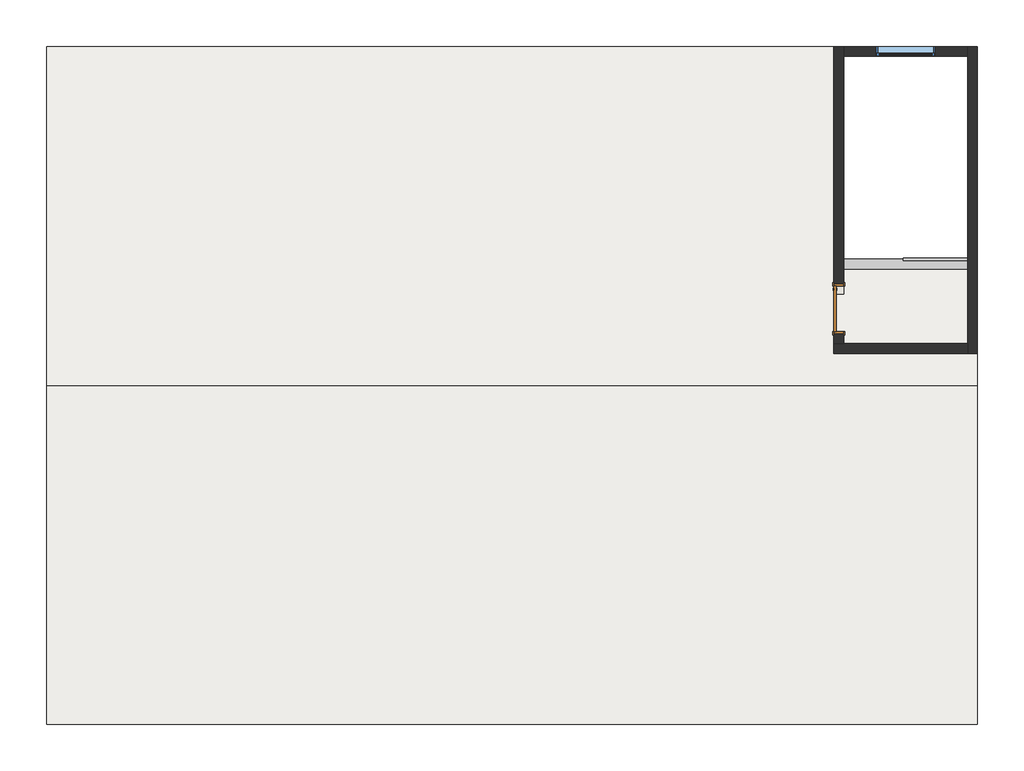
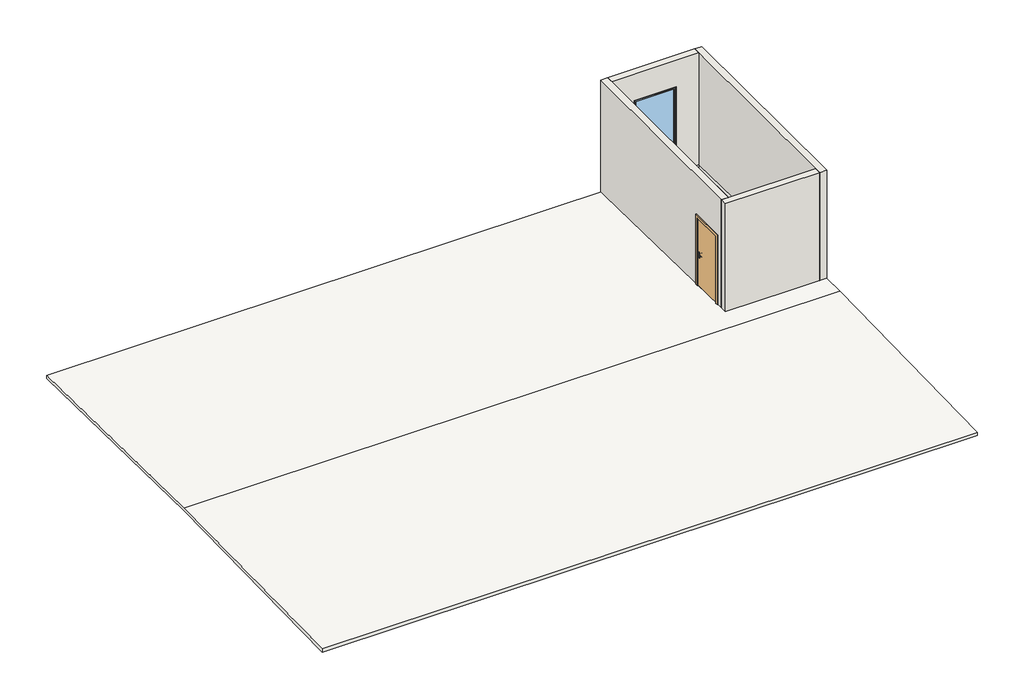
# One storey, incomplete: 4 walls, 1 beam, 1 door, 1 railing, 1 roof, 1 window.
"""IFC4 building model written with IfcOpenShell, lengths in millimetres."""

import ifcopenshell
import ifcopenshell.guid

model = None  # the IFC model being written
_history = None  # IfcOwnerHistory: only IFC2X3 demands one
_inside = {}  # id of a spatial element -> (the spatial element, [elements in it])
_under = {}  # id of a project, library or spatial element -> (it, [spatial elements below it])
_declared = {}  # id of a project -> (the project, [libraries it declares])
_typed = {}  # id of a type object -> (the type object, [elements of that type])
_made_of = {}  # id of a material, layer set ... -> (it, [elements and type objects made of it])


def new_model(schema):
    """Start an empty IFC model of exactly this schema.

    Asked for "IFC4X3", IfcOpenShell would pick the latest addendum, in which some entities
    have other attributes; the version numbers below select the first issue.
    IFC2X3 requires an IfcOwnerHistory on every rooted entity: one is made here for all.
    """
    global model, _history
    if schema == "IFC4X3":
        model = ifcopenshell.file(schema_version=(4, 3, 0, 0))
    else:
        model = ifcopenshell.file(schema=schema)
    _inside.clear()
    _under.clear()
    _declared.clear()
    _typed.clear()
    _made_of.clear()
    _history = None
    if model.schema == "IFC2X3":
        org = make("IfcOrganization", Name="unknown")
        user = make(
            "IfcPersonAndOrganization",
            ThePerson=make("IfcPerson", FamilyName="unknown"),
            TheOrganization=org,
        )
        app = make(
            "IfcApplication",
            ApplicationDeveloper=org,
            Version="unknown",
            ApplicationFullName="unknown",
            ApplicationIdentifier="unknown",
        )
        _history = make(
            "IfcOwnerHistory",
            OwningUser=user,
            OwningApplication=app,
            ChangeAction="ADDED",
            CreationDate=0,
        )
    return model


def make(cls, **values):
    """One entity of the class cls with the attributes given. An attribute that is None is left unset."""
    return model.create_entity(
        cls, **{name: value for name, value in values.items() if value is not None}
    )


def rooted(cls, **values):
    """An entity with a GlobalId (a new one), such as an element, a storey or a relation."""
    return make(cls, GlobalId=ifcopenshell.guid.new(), OwnerHistory=_history, **values)


def si_unit(unit_type, name, prefix=None):
    """IfcSIUnit, for example si_unit("LENGTHUNIT", "METRE", prefix="MILLI")."""
    return make("IfcSIUnit", UnitType=unit_type, Prefix=prefix, Name=name)


def assignment(units):
    """IfcUnitAssignment: the units of a project."""
    return None if units is None else make("IfcUnitAssignment", Units=units)


def point(xyz):
    """IfcCartesianPoint."""
    return None if xyz is None else make("IfcCartesianPoint", Coordinates=xyz)


def direction(xyz):
    """IfcDirection."""
    return None if xyz is None else make("IfcDirection", DirectionRatios=xyz)


def frame(location, z_axis=None, x_axis=None):
    """IfcAxis2Placement3D, a coordinate frame: its origin and axes. An axis left out is left unset."""
    return make(
        "IfcAxis2Placement3D",
        Location=point(location),
        Axis=direction(z_axis),
        RefDirection=direction(x_axis),
    )


def frame_2d(location, x_axis=None):
    """IfcAxis2Placement2D, a coordinate frame in the plane: its origin and x axis."""
    return make(
        "IfcAxis2Placement2D", Location=point(location), RefDirection=direction(x_axis)
    )


def origin():
    """The frame at (0, 0, 0) with its axes left unset."""
    return frame((0.0, 0.0, 0.0))


def origin_with_axes():
    """The frame at (0, 0, 0) with the z axis (0, 0, 1) and the x axis (1, 0, 0) written out."""
    return frame((0.0, 0.0, 0.0), z_axis=(0.0, 0.0, 1.0), x_axis=(1.0, 0.0, 0.0))


def place(relative_to, where):
    """IfcLocalPlacement: puts the frame where relative to a parent placement (None: the world)."""
    return make(
        "IfcLocalPlacement", PlacementRelTo=relative_to, RelativePlacement=where
    )


def context(
    kind, dimensions, precision=None, world=None, true_north=None, identifier=None
):
    """IfcGeometricRepresentationContext, for example the 3D "Model" context."""
    return make(
        "IfcGeometricRepresentationContext",
        ContextIdentifier=identifier,
        ContextType=kind,
        CoordinateSpaceDimension=dimensions,
        Precision=precision,
        WorldCoordinateSystem=world,
        TrueNorth=true_north,
    )


def project(units=None, contexts=None):
    """IfcProject with its units and contexts."""
    return rooted(
        "IfcProject",
        Name="project",
        RepresentationContexts=contexts,
        UnitsInContext=assignment(units),
    )


def spatial(cls, under=None, at=None, **own):
    """A site, building, storey or space (cls), placed at a placement, below another one or the project."""
    s = rooted(cls, ObjectPlacement=at, **own)
    if under is not None:
        _under.setdefault(under.id(), (under, []))[1].append(s)
    return s


def polyline(points):
    """IfcPolyline through the points."""
    return make("IfcPolyline", Points=[point(p) for p in points])


def circle_curve(where, radius):
    """IfcCircle in the frame where."""
    return make("IfcCircle", Position=where, Radius=radius)


def ellipse_curve(where, semi_axis1, semi_axis2):
    """IfcEllipse in the frame where."""
    return make(
        "IfcEllipse", Position=where, SemiAxis1=semi_axis1, SemiAxis2=semi_axis2
    )


def trimmed(basis, trim1, trim2, sense, master):
    """IfcTrimmedCurve: the piece of a basis curve between two trims."""
    return make(
        "IfcTrimmedCurve",
        BasisCurve=basis,
        Trim1=trim1,
        Trim2=trim2,
        SenseAgreement=sense,
        MasterRepresentation=master,
    )


def segment(curve, same_sense, transition):
    """IfcCompositeCurveSegment."""
    return make(
        "IfcCompositeCurveSegment",
        Transition=transition,
        SameSense=same_sense,
        ParentCurve=curve,
    )


def composite_curve(segments, self_intersect=None):
    """IfcCompositeCurve: segments joined end to end."""
    return make("IfcCompositeCurve", Segments=segments, SelfIntersect=self_intersect)


def outline(outer, holes=None, kind="AREA"):
    """IfcArbitraryClosedProfileDef: a profile drawn as a closed curve; with holes, ...WithVoids."""
    if holes is None:
        return make("IfcArbitraryClosedProfileDef", ProfileType=kind, OuterCurve=outer)
    return make(
        "IfcArbitraryProfileDefWithVoids",
        ProfileType=kind,
        OuterCurve=outer,
        InnerCurves=holes,
    )


def extrude(swept, where, along, depth):
    """IfcExtrudedAreaSolid: the profile swept, set in the frame where, extruded along a direction by depth."""
    return make(
        "IfcExtrudedAreaSolid",
        SweptArea=swept,
        Position=where,
        ExtrudedDirection=direction(along),
        Depth=depth,
    )


def faces_of(points, faces, orient=None, outer=None):
    """IfcFace entities. A face is a list of loops; a loop is a list of indices into points, from 0.

    orient and outer hold one flag for each loop. By default every Orientation is true, the
    first loop of a face is its IfcFaceOuterBound and the others are IfcFaceBound.
    """
    made = []
    for i, loops in enumerate(faces):
        bounds = []
        for j, loop in enumerate(loops):
            is_outer = j == 0 if outer is None else outer[i][j]
            bounds.append(
                make(
                    "IfcFaceOuterBound" if is_outer else "IfcFaceBound",
                    Bound=make("IfcPolyLoop", Polygon=[points[k] for k in loop]),
                    Orientation=True if orient is None else orient[i][j],
                )
            )
        made.append(make("IfcFace", Bounds=bounds))
    return made


def faceted_brep(points, faces, orient=None, outer=None, voids=None):
    """IfcFacetedBrep: a solid bounded by flat faces; with voids (closed shells), ...WithVoids."""
    shared = [point(p) for p in points]
    hull = make("IfcClosedShell", CfsFaces=faces_of(shared, faces, orient, outer))
    if voids is None:
        return make("IfcFacetedBrep", Outer=hull)
    return make(
        "IfcFacetedBrepWithVoids",
        Outer=hull,
        Voids=[
            make(cls, CfsFaces=faces_of(shared, fs, o, b)) for cls, fs, o, b in voids
        ],
    )


def shape(context_of_items, identifier, shape_type, items):
    """IfcShapeRepresentation: the items that make up one representation, for example the "Body"."""
    return make(
        "IfcShapeRepresentation",
        ContextOfItems=context_of_items,
        RepresentationIdentifier=identifier,
        RepresentationType=shape_type,
        Items=items,
    )


def source(mapping_origin, context_of_items, identifier, shape_type, items):
    """IfcRepresentationMap: a shape defined once, which mapped items show again and again."""
    return make(
        "IfcRepresentationMap",
        MappingOrigin=mapping_origin,
        MappedRepresentation=shape(context_of_items, identifier, shape_type, items),
    )


def transform(
    local_origin,
    x_axis=None,
    y_axis=None,
    z_axis=None,
    scale=None,
    scale2=None,
    scale3=None,
    uniform=True,
):
    """IfcCartesianTransformationOperator3D, or its non-uniform kind. x_axis, y_axis, z_axis: its Axis1, 2, 3."""
    if uniform:
        return make(
            "IfcCartesianTransformationOperator3D",
            Axis1=direction(x_axis),
            Axis2=direction(y_axis),
            LocalOrigin=point(local_origin),
            Scale=scale,
            Axis3=direction(z_axis),
        )
    return make(
        "IfcCartesianTransformationOperator3DnonUniform",
        Axis1=direction(x_axis),
        Axis2=direction(y_axis),
        LocalOrigin=point(local_origin),
        Scale=scale,
        Axis3=direction(z_axis),
        Scale2=scale2,
        Scale3=scale3,
    )


def mapped(mapping_source, mapping_target):
    """IfcMappedItem: shows the shape of a source again, moved by a transform."""
    return make(
        "IfcMappedItem", MappingSource=mapping_source, MappingTarget=mapping_target
    )


def made_of(thing, what):
    """Note that an element or type object is made of a material, layer set ...; save() writes the relation."""
    if what is not None:
        _made_of.setdefault(what.id(), (what, []))[1].append(thing)
    return thing


def element(
    cls,
    number,
    at=None,
    inside=None,
    cuts=None,
    type_object=None,
    material=None,
    context=None,
    identifier="Body",
    shape_type=None,
    held_by="IfcProductDefinitionShape",
    body=None,
    shapes=None,
    **own,
):
    """One element of the class cls, such as IfcWall. Its Tag is "e" and its number.

    at: its placement. inside: the storey or other place that contains it. cuts: it is an
    opening in that element (IfcRelVoidsElement). A single representation is given by context,
    identifier, shape_type and body (its items); several are given by shapes. held_by: the class
    of the entity that holds the representations. save() writes the other relations.
    """
    e = rooted(cls, Tag="e%d" % number, ObjectPlacement=at, **own)
    if body is not None:
        shapes = [shape(context, identifier, shape_type, body)]
    if shapes is not None:
        e.Representation = make(held_by, Representations=shapes)
    if inside is not None:
        _inside.setdefault(inside.id(), (inside, []))[1].append(e)
    if cuts is not None:
        rooted(
            "IfcRelVoidsElement", RelatingBuildingElement=cuts, RelatedOpeningElement=e
        )
    if type_object is not None:
        _typed.setdefault(type_object.id(), (type_object, []))[1].append(e)
    return made_of(e, material)


def aggregate(whole, parts):
    """IfcRelAggregates: a whole, such as a stair, and the parts it consists of."""
    return rooted("IfcRelAggregates", RelatingObject=whole, RelatedObjects=parts)


def save(model, path):
    """Write the relations noted so far, then the file.

    IfcRelAggregates (storeys below a building ...), IfcRelContainedInSpatialStructure (elements
    in a storey), IfcRelDefinesByType, IfcRelAssociatesMaterial and IfcRelDeclares: one each for
    every whole, place, type object, material and project.
    """
    for whole, parts in _under.values():
        aggregate(whole, parts)
    for where, things in _inside.values():
        rooted(
            "IfcRelContainedInSpatialStructure",
            RelatedElements=things,
            RelatingStructure=where,
        )
    for kind, things in _typed.values():
        rooted("IfcRelDefinesByType", RelatedObjects=things, RelatingType=kind)
    for what, things in _made_of.values():
        rooted("IfcRelAssociatesMaterial", RelatedObjects=things, RelatingMaterial=what)
    for by, libraries in _declared.values():
        rooted("IfcRelDeclares", RelatingContext=by, RelatedDefinitions=libraries)
    model.write(path)


def plane_surface(at):
    """IfcPlane: the flat surface through the origin of the frame at, square to its z axis."""
    return make("IfcPlane", Position=at)


def cylinder_surface(at, radius):
    """IfcCylindricalSurface: all points at the distance radius from the z axis of the frame at."""
    return make("IfcCylindricalSurface", Position=at, Radius=radius)


def revolved_surface(curve, axis_point, axis_direction):
    """IfcSurfaceOfRevolution: the curve turned about the line through axis_point along axis_direction."""
    return make(
        "IfcSurfaceOfRevolution",
        SweptCurve=make("IfcArbitraryOpenProfileDef", ProfileType="CURVE", Curve=curve),
        AxisPosition=make("IfcAxis1Placement", Location=point(axis_point), Axis=direction(axis_direction)),
    )


def advanced_brep(points, edges, surfaces, faces):
    """IfcAdvancedBrep: a solid bounded by faces that lie on surfaces and meet in shared edges.

    An edge is (start, end): straight between two places in points (the first is 0);
    or (start, end, curve); or (start, end, curve, False) where it runs against its curve.
    A face is (place in surfaces, loops), or (place, loops, False) where it looks against
    its surface's normal. A loop lists edges by number (the first is 1), with a minus sign
    where the edge is run from its end to its start. The first loop is the outer one.
    """
    corners = [point(p) for p in points]
    vertices = [make("IfcVertexPoint", VertexGeometry=c) for c in corners]
    made = []
    for start, end, *more in edges:
        made.append(
            make(
                "IfcEdgeCurve",
                EdgeStart=vertices[start],
                EdgeEnd=vertices[end],
                EdgeGeometry=more[0] if more else make("IfcPolyline", Points=[corners[start], corners[end]]),
                SameSense=more[1] if len(more) > 1 else True,
            )
        )
    hull = []
    for where, loops, *sense in faces:
        bounds = []
        for j, loop in enumerate(loops):
            ring = [make("IfcOrientedEdge", EdgeElement=made[abs(k) - 1], Orientation=k > 0) for k in loop]
            bounds.append(
                make(
                    "IfcFaceOuterBound" if j == 0 else "IfcFaceBound",
                    Bound=make("IfcEdgeLoop", EdgeList=ring),
                    Orientation=True,
                )
            )
        hull.append(make("IfcAdvancedFace", Bounds=bounds, FaceSurface=surfaces[where], SameSense=sense[0] if sense else True))
    return make("IfcAdvancedBrep", Outer=make("IfcClosedShell", CfsFaces=hull))


def beam_200_x_350mm_bc6e23a3(model_context):
    return source(origin(), model_context, "Body", "SweptSolid", [
        extrude(outline(polyline([(1250.0, 100.0), (1250.0, -100.0), (-1250.0, -100.0), (-1250.0, 100.0), (1250.0, 100.0)])), frame((0.0, 0.0, -175.0), z_axis=(0.0, 0.0, 1.0), x_axis=(1.0, 0.0, 0.0)), (0.0, 0.0, 1.0), 350.0),
    ])


def m3_ab7da2a0(model_context):
    return source(origin(), model_context, "Body", "SolidModel", [
        extrude(outline(composite_curve([segment(trimmed(circle_curve(frame_2d((900.0, -395.0)), 25.0), [point((900.0, -370.0))], [point((900.0, -420.0))], False, "CARTESIAN"), True, "CONTINUOUS"), segment(trimmed(circle_curve(frame_2d((900.0, -395.0)), 25.0), [point((900.0, -420.0))], [point((900.0, -370.0))], False, "CARTESIAN"), True, "CONTINUOUS")], self_intersect=False)), frame((0.0, -50.0, 0.0), z_axis=(0.0, 1.0, 0.0), x_axis=(0.0, 0.0, 1.0)), (0.0, 0.0, 1.0), 10.0),
        extrude(outline(composite_curve([segment(trimmed(circle_curve(frame_2d((900.0, -395.0)), 25.0), [point((900.0, -370.0))], [point((900.0, -420.0))], False, "CARTESIAN"), True, "CONTINUOUS"), segment(trimmed(circle_curve(frame_2d((900.0, -395.0)), 25.0), [point((900.0, -420.0))], [point((900.0, -370.0))], False, "CARTESIAN"), True, "CONTINUOUS")], self_intersect=False)), frame((0.0, -110.0, 0.0), z_axis=(0.0, 1.0, 0.0), x_axis=(0.0, 0.0, 1.0)), (0.0, 0.0, 1.0), 10.0),
        advanced_brep(
        [(-405.0, -40.0, 1020.0), (-385.0, -40.0, 1020.0), (-405.0, -19.386645, 1020.0), (-385.0, -19.386645, 1020.0), (-263.419036, 3.580964, 1020.0), (-263.419036, -16.419036, 1020.0), (-382.0323911, -16.419036, 1020.0), (-382.0323911, 3.580964, 1020.0)],
        [
            (0, 1, circle_curve(frame((-395.0, -40.0, 1020.0), z_axis=(0.0, -1.0, 0.0), x_axis=(1.0, 0.0, 0.0)), 10.0)),
            (1, 0, circle_curve(frame((-395.0, -40.0, 1020.0), z_axis=(0.0, -1.0, 0.0), x_axis=(1.0, 0.0, 0.0)), 10.0)),
            (0, 2),
            (2, 3, circle_curve(frame((-395.0, -19.386645, 1020.0), z_axis=(0.0, -1.0, 0.0), x_axis=(1.0, 0.0, 0.0)), 10.0)),
            (3, 1),
            (3, 2, circle_curve(frame((-395.0, -19.386645, 1020.0), z_axis=(0.0, -1.0, 0.0), x_axis=(1.0, 0.0, 0.0)), 10.0)),
            (4, 5, circle_curve(frame((-263.419036, -6.419036, 1020.0), z_axis=(1.0, 0.0, 0.0), x_axis=(0.0, -1.0, 0.0)), 10.0)),
            (5, 4, circle_curve(frame((-263.419036, -6.419036, 1020.0), z_axis=(1.0, 0.0, 0.0), x_axis=(0.0, -1.0, 0.0)), 10.0)),
            (6, 7, circle_curve(frame((-382.0323911, -6.419036, 1020.0), z_axis=(-1.0, 0.0, 0.0), x_axis=(0.0, -1.0, 0.0)), 10.0)),
            (7, 2, circle_curve(frame((-382.0323911, -19.386645, 1020.0), z_axis=(0.0, 0.0, 1.0), x_axis=(-1.0, 0.0, 0.0)), 22.9676089)),
            (3, 6, circle_curve(frame((-382.0323911, -19.386645, 1020.0), z_axis=(0.0, 0.0, -1.0), x_axis=(-1.0, 0.0, 0.0)), 2.9676089)),
            (7, 6, circle_curve(frame((-382.0323911, -6.419036, 1020.0), z_axis=(-1.0, 0.0, 0.0), x_axis=(0.0, -1.0, 0.0)), 10.0)),
            (6, 5),
            (4, 7),
        ],
        [
            plane_surface(frame((-395.0, -40.0, 900.0), z_axis=(0.0, -1.0, 0.0), x_axis=(0.0, 0.0, 1.0))),
            cylinder_surface(frame((-395.0, -40.0, 1020.0), z_axis=(0.0, -1.0, 0.0), x_axis=(1.0, 0.0, 0.0)), 10.0),
            plane_surface(frame((-263.419036, -6.419036, 900.0), z_axis=(1.0, 0.0, 0.0), x_axis=(0.0, 0.0, 1.0))),
            revolved_surface(trimmed(ellipse_curve(frame((-395.0, -19.386645, 1020.0), z_axis=(0.0, 1.0, 0.0), x_axis=(1.0, 0.0, 0.0)), 10.0, 10.0), [point((-405.0, -19.386645, 1020.0))], [point((-385.0, -19.386645, 1020.0))], True, "CARTESIAN"), (-382.0323911, -19.386645, 900.0), (0.0, 0.0, 1.0)),
            revolved_surface(trimmed(ellipse_curve(frame((-395.0, -19.386645, 1020.0), z_axis=(0.0, 1.0, 0.0), x_axis=(1.0, 0.0, 0.0)), 10.0, 10.0), [point((-385.0, -19.386645, 1020.0))], [point((-405.0, -19.386645, 1020.0))], True, "CARTESIAN"), (-382.0323911, -19.386645, 900.0), (0.0, 0.0, 1.0)),
            cylinder_surface(frame((-382.0323911, -6.419036, 1020.0), z_axis=(-1.0, 0.0, 0.0), x_axis=(0.0, -1.0, 0.0)), 10.0),
        ],
        [
            (0, [[1, 2]]),
            (1, [[3, 4, 5, -1]]),
            (1, [[-5, 6, -3, -2]]),
            (2, [[7, 8]]),
            (3, [[9, 10, -6, 11]]),
            (4, [[12, -11, -4, -10]]),
            (5, [[13, -7, 14, -9]]),
            (5, [[-14, -8, -13, -12]]),
        ],
    ),
        extrude(outline(composite_curve([segment(trimmed(circle_curve(frame_2d((1020.0, -395.0)), 25.0), [point((1020.0, -370.0))], [point((1020.0, -420.0))], False, "CARTESIAN"), True, "CONTINUOUS"), segment(trimmed(circle_curve(frame_2d((1020.0, -395.0)), 25.0), [point((1020.0, -420.0))], [point((1020.0, -370.0))], False, "CARTESIAN"), True, "CONTINUOUS")], self_intersect=False)), frame((0.0, -50.0, 0.0), z_axis=(0.0, 1.0, 0.0), x_axis=(0.0, 0.0, 1.0)), (0.0, 0.0, 1.0), 10.0),
        advanced_brep(
        [(-385.0, -110.0, 1020.0), (-405.0, -110.0, 1020.0), (-405.0, -130.6133551, 1020.0), (-385.0, -130.6133551, 1020.0), (-263.419036, -133.580964, 1020.0), (-263.419036, -153.580964, 1020.0), (-382.0323911, -153.580964, 1020.0), (-382.0323911, -133.580964, 1020.0)],
        [
            (0, 1, circle_curve(frame((-395.0, -110.0, 1020.0), z_axis=(0.0, 1.0, 0.0), x_axis=(-1.0, 0.0, 0.0)), 10.0)),
            (1, 0, circle_curve(frame((-395.0, -110.0, 1020.0), z_axis=(0.0, 1.0, 0.0), x_axis=(-1.0, 0.0, 0.0)), 10.0)),
            (1, 2),
            (2, 3, circle_curve(frame((-395.0, -130.6133551, 1020.0), z_axis=(0.0, 1.0, 0.0), x_axis=(-1.0, 0.0, 0.0)), 10.0)),
            (3, 0),
            (3, 2, circle_curve(frame((-395.0, -130.6133551, 1020.0), z_axis=(0.0, 1.0, 0.0), x_axis=(-1.0, 0.0, 0.0)), 10.0)),
            (4, 5, circle_curve(frame((-263.419036, -143.580964, 1020.0), z_axis=(1.0, 0.0, 0.0), x_axis=(0.0, -1.0, 0.0)), 10.0)),
            (5, 4, circle_curve(frame((-263.419036, -143.580964, 1020.0), z_axis=(1.0, 0.0, 0.0), x_axis=(0.0, -1.0, 0.0)), 10.0)),
            (6, 7, circle_curve(frame((-382.0323911, -143.580964, 1020.0), z_axis=(-1.0, 0.0, 0.0), x_axis=(0.0, -1.0, 0.0)), 10.0)),
            (7, 3, circle_curve(frame((-382.0323911, -130.6133551, 1020.0), z_axis=(0.0, 0.0, -1.0), x_axis=(-1.0, 0.0, 0.0)), 2.9676089)),
            (2, 6, circle_curve(frame((-382.0323911, -130.6133551, 1020.0), z_axis=(0.0, 0.0, 1.0), x_axis=(-1.0, 0.0, 0.0)), 22.9676089)),
            (7, 6, circle_curve(frame((-382.0323911, -143.580964, 1020.0), z_axis=(-1.0, 0.0, 0.0), x_axis=(0.0, -1.0, 0.0)), 10.0)),
            (6, 5),
            (4, 7),
        ],
        [
            plane_surface(frame((-395.0, -110.0, 900.0), z_axis=(0.0, 1.0, 0.0), x_axis=(0.0, 0.0, 1.0))),
            cylinder_surface(frame((-395.0, -110.0, 1020.0), z_axis=(0.0, 1.0, 0.0), x_axis=(-1.0, 0.0, 0.0)), 10.0),
            plane_surface(frame((-263.419036, -143.580964, 900.0), z_axis=(1.0, 0.0, 0.0), x_axis=(0.0, 0.0, 1.0))),
            revolved_surface(trimmed(ellipse_curve(frame((-395.0, -130.6133551, 1020.0), z_axis=(0.0, -1.0, 0.0), x_axis=(-1.0, 0.0, 0.0)), 10.0, 10.0), [point((-385.0, -130.6133551, 1020.0))], [point((-405.0, -130.6133551, 1020.0))], True, "CARTESIAN"), (-382.0323911, -130.6133551, 900.0), (0.0, 0.0, -1.0)),
            revolved_surface(trimmed(ellipse_curve(frame((-395.0, -130.6133551, 1020.0), z_axis=(0.0, -1.0, 0.0), x_axis=(-1.0, 0.0, 0.0)), 10.0, 10.0), [point((-405.0, -130.6133551, 1020.0))], [point((-385.0, -130.6133551, 1020.0))], True, "CARTESIAN"), (-382.0323911, -130.6133551, 900.0), (0.0, 0.0, -1.0)),
            cylinder_surface(frame((-382.0323911, -143.580964, 1020.0), z_axis=(-1.0, 0.0, 0.0), x_axis=(0.0, -1.0, 0.0)), 10.0),
        ],
        [
            (0, [[1, 2]]),
            (1, [[3, 4, 5, -2]]),
            (1, [[-5, 6, -3, -1]]),
            (2, [[7, 8]]),
            (3, [[9, 10, -4, 11]]),
            (4, [[12, -11, -6, -10]]),
            (5, [[13, -7, 14, -9]]),
            (5, [[-14, -8, -13, -12]]),
        ],
    ),
        extrude(outline(composite_curve([segment(trimmed(circle_curve(frame_2d((1020.0, -395.0)), 25.0), [point((1020.0, -370.0))], [point((1020.0, -420.0))], False, "CARTESIAN"), True, "CONTINUOUS"), segment(trimmed(circle_curve(frame_2d((1020.0, -395.0)), 25.0), [point((1020.0, -420.0))], [point((1020.0, -370.0))], False, "CARTESIAN"), True, "CONTINUOUS")], self_intersect=False)), frame((0.0, -110.0, 0.0), z_axis=(0.0, 1.0, 0.0), x_axis=(0.0, 0.0, 1.0)), (0.0, 0.0, 1.0), 10.0),
        extrude(outline(polyline([(0.0, 530.0), (2130.0, 530.0), (2130.0, -530.0), (0.0, -530.0), (0.0, -455.0), (2055.0, -455.0), (2055.0, 455.0), (0.0, 455.0), (0.0, 530.0)])), frame((0.0, -125.0, 0.0), z_axis=(0.0, 1.0, 0.0), x_axis=(0.0, 0.0, 1.0)), (0.0, 0.0, 1.0), 25.0),
        extrude(outline(polyline([(2130.0, 530.0), (2130.0, -530.0), (0.0, -530.0), (0.0, -455.0), (2055.0, -455.0), (2055.0, 455.0), (0.0, 455.0), (0.0, 530.0), (2130.0, 530.0)])), frame((0.0, 100.0, 0.0), z_axis=(0.0, 1.0, 0.0), x_axis=(0.0, 0.0, 1.0)), (0.0, 0.0, 1.0), 25.0),
        extrude(outline(polyline([(455.0, -50.0), (455.0, -100.0), (-455.0, -100.0), (-455.0, -50.0), (455.0, -50.0)])), origin_with_axes(), (0.0, 0.0, 1.0), 2055.0),
        extrude(outline(polyline([(2100.0, -500.0), (0.0, -500.0), (0.0, -455.0), (2055.0, -455.0), (2055.0, 455.0), (0.0, 455.0), (0.0, 500.0), (2100.0, 500.0), (2100.0, -500.0)])), frame((0.0, -100.0, 0.0), z_axis=(0.0, 1.0, 0.0), x_axis=(0.0, 0.0, 1.0)), (0.0, 0.0, 1.0), 200.0),
    ])


def c4_3407baf4(model_context):
    return source(origin(), model_context, "Body", "SweptSolid", [
        extrude(outline(polyline([(-537.0, 78.0), (537.0, 78.0), (537.0, 66.0), (-537.0, 66.0), (-537.0, 78.0)])), frame((0.0, 0.0, 963.0), z_axis=(0.0, 0.0, 1.0), x_axis=(1.0, 0.0, 0.0)), (0.0, 0.0, 1.0), 1674.0),
        extrude(outline(polyline([(2681.0, -581.0), (919.0, -581.0), (919.0, 581.0), (2681.0, 581.0), (2681.0, -581.0)]), holes=[polyline([(2637.0, -537.0), (2637.0, 537.0), (963.0, 537.0), (963.0, -537.0), (2637.0, -537.0)])]), frame((0.0, 50.0, 0.0), z_axis=(0.0, 1.0, 0.0), x_axis=(0.0, 0.0, 1.0)), (0.0, 0.0, 1.0), 44.0),
        extrude(outline(polyline([(2700.0, -600.0), (900.0, -600.0), (900.0, 600.0), (2700.0, 600.0), (2700.0, -600.0)]), holes=[polyline([(2681.0, -581.0), (2681.0, 581.0), (919.0, 581.0), (919.0, -581.0), (2681.0, -581.0)])]), frame((0.0, 50.0, 0.0), z_axis=(0.0, 1.0, 0.0), x_axis=(0.0, 0.0, 1.0)), (0.0, 0.0, 1.0), 63.0),
        extrude(outline(polyline([(2700.0, -600.0), (900.0, -600.0), (900.0, 600.0), (2700.0, 600.0), (2700.0, -600.0)]), holes=[polyline([(2668.0, -568.0), (2668.0, 568.0), (932.0, 568.0), (932.0, -568.0), (2668.0, -568.0)])]), frame((0.0, -87.0, 0.0), z_axis=(0.0, 1.0, 0.0), x_axis=(0.0, 0.0, 1.0)), (0.0, 0.0, 1.0), 137.0),
    ])


model = new_model("IFC4")

# Units and contexts
model_context = context("Model", 3, world=origin())
ifc_project = project(units=[si_unit("LENGTHUNIT", "METRE", prefix="MILLI")], contexts=[model_context])

# Site, building, storey
site = spatial("IfcSite", under=ifc_project)
building = spatial("IfcBuilding", under=site)
storey = spatial("IfcBuildingStorey", under=building, Name="屋顶", Elevation=20400.0)

# Beam
placement = place(None, origin())
beam_200_x_350mm_shape = beam_200_x_350mm_bc6e23a3(model_context)
element("IfcBeam", 1, ObjectType="混凝土 - 矩形梁 : 200 x 350mm", at=placement, inside=storey, context=model_context, shape_type="MappedRepresentation", body=[
    mapped(beam_200_x_350mm_shape, transform((17250.0, 9200.0, 20225.0), x_axis=(1.0, 0.0, 0.0), y_axis=(0.0, 1.0, 0.0), z_axis=(0.0, 0.0, 1.0))),
])

# Door
m3_shape = m3_ab7da2a0(model_context)
element("IfcDoor", 2, ObjectType="单嵌板木门 1 : M3", at=placement, inside=storey, context=model_context, shape_type="MappedRepresentation", body=[
    mapped(m3_shape, transform((15900.0, 8300.0, 20600.0), x_axis=(0.0, -1.0, 0.0), y_axis=(1.0, 0.0, 0.0), z_axis=(0.0, 0.0, 1.0))),
])

# Railing
element("IfcRailing", 3, ObjectType="1100mm", at=placement, inside=storey, context=model_context, shape_type="SweptSolid", body=[
    extrude(outline(polyline([(17199.6, 9275.0), (17199.6, 9325.0), (18500.0, 9325.0), (18500.0, 9275.0), (17199.6, 9275.0)])), frame((0.0, 0.0, 21450.0), z_axis=(0.0, 0.0, 1.0), x_axis=(1.0, 0.0, 0.0)), (0.0, 0.0, 1.0), 50.0),
    extrude(outline(polyline([(18287.1, 9287.5), (18287.1, 9312.5), (18312.1, 9312.5), (18312.1, 9287.5), (18287.1, 9287.5)])), frame((0.0, 0.0, 20400.0), z_axis=(0.0, 0.0, 1.0), x_axis=(1.0, 0.0, 0.0)), (0.0, 0.0, 1.0), 1050.0),
    extrude(outline(polyline([(18012.1, 9287.5), (18012.1, 9312.5), (18037.1, 9312.5), (18037.1, 9287.5), (18012.1, 9287.5)])), frame((0.0, 0.0, 20400.0), z_axis=(0.0, 0.0, 1.0), x_axis=(1.0, 0.0, 0.0)), (0.0, 0.0, 1.0), 1050.0),
    extrude(outline(polyline([(17737.1, 9287.5), (17737.1, 9312.5), (17762.1, 9312.5), (17762.1, 9287.5), (17737.1, 9287.5)])), frame((0.0, 0.0, 20400.0), z_axis=(0.0, 0.0, 1.0), x_axis=(1.0, 0.0, 0.0)), (0.0, 0.0, 1.0), 1050.0),
    extrude(outline(polyline([(17462.1, 9287.5), (17462.1, 9312.5), (17487.1, 9312.5), (17487.1, 9287.5), (17462.1, 9287.5)])), frame((0.0, 0.0, 20400.0), z_axis=(0.0, 0.0, 1.0), x_axis=(1.0, 0.0, 0.0)), (0.0, 0.0, 1.0), 1050.0),
    extrude(outline(polyline([(18475.0, 9287.5), (18475.0, 9312.5), (18500.0, 9312.5), (18500.0, 9287.5), (18475.0, 9287.5)])), frame((0.0, 0.0, 20400.0), z_axis=(0.0, 0.0, 1.0), x_axis=(1.0, 0.0, 0.0)), (0.0, 0.0, 1.0), 1050.0),
    extrude(outline(polyline([(17199.6, 9287.5), (17199.6, 9312.5), (17224.6, 9312.5), (17224.6, 9287.5), (17199.6, 9287.5)])), frame((0.0, 0.0, 20400.0), z_axis=(0.0, 0.0, 1.0), x_axis=(1.0, 0.0, 0.0)), (0.0, 0.0, 1.0), 1050.0),
])

# Roof
element("IfcRoof", 4, ObjectType="100mm厚钢筋混凝土", at=placement, inside=storey, context=model_context, shape_type="Brep", body=[
    faceted_brep([(18700.0, 13600.0, 20500.0), (18700.0, 6750.0, 20637.0), (18700.0, -100.0, 20500.0), (18700.0, -100.0, 20399.980002), (18700.0, 6750.0, 20536.980002), (18700.0, 13600.0, 20399.980002), (-100.0, 6750.0, 20637.0), (-100.0, 13600.0, 20500.0), (-100.0, 13600.0, 20399.980002), (-100.0, 6750.0, 20536.980002), (-100.0, -100.0, 20399.980002), (-100.0, -100.0, 20500.0), (16000.0, 13400.0, 20504.0), (18500.0, 13400.0, 20504.0), (18500.0, 9100.0, 20590.0), (16000.0, 9100.0, 20590.0), (18500.0, 13400.0, 20403.980002), (16000.0, 13400.0, 20403.980002), (16000.0, 9100.0, 20489.980002), (18500.0, 9100.0, 20489.980002)], [[[0, 1, 2, 3, 4, 5]], [[6, 7, 8, 9, 10, 11]], [[1, 0, 7, 6], [12, 13, 14, 15]], [[2, 1, 6, 11]], [[3, 2, 11, 10]], [[4, 3, 10, 9]], [[5, 4, 9, 8], [16, 17, 18, 19]], [[0, 5, 8, 7]], [[16, 13, 12, 17]], [[17, 12, 15, 18]], [[18, 15, 14, 19]], [[13, 16, 19, 14]]]),
])

# Walls
element("IfcWall", 5, ObjectType="200mm厚加气混凝土砌块", at=placement, inside=storey, context=model_context, shape_type="Brep", body=[
    faceted_brep([(15800.0, 7600.0, 23900.0), (15800.0, 13600.0, 23900.0), (15800.0, 13600.0, 20500.0), (15800.0, 8600.0, 20600.0), (15800.0, 8800.0, 20600.0), (15800.0, 8800.0, 22700.0), (15800.0, 7800.0, 22700.0), (15800.0, 7800.0, 20616.0), (15800.0, 7600.0, 20620.0), (16000.0, 13600.0, 23900.0), (16000.0, 13400.0, 23900.0), (16000.0, 7600.0, 23900.0), (16000.0, 7600.0, 20620.0), (16000.0, 7800.0, 20616.0), (16000.0, 7800.0, 22700.0), (16000.0, 8800.0, 22700.0), (16000.0, 8800.0, 20600.0), (16000.0, 8600.0, 20600.0), (16000.0, 13400.0, 20504.0), (16000.0, 13600.0, 20500.0)], [[[0, 1, 2, 3, 4, 5, 6, 7, 8]], [[9, 10, 11, 12, 13, 14, 15, 16, 17, 18, 19]], [[1, 0, 11, 10, 9]], [[2, 1, 9, 19]], [[6, 14, 13, 7]], [[14, 6, 5, 15]], [[15, 5, 4, 16]], [[16, 4, 3, 17]], [[11, 0, 8, 12]], [[2, 19, 18, 17, 3]], [[12, 8, 7, 13]]]),
])
element("IfcWall", 6, ObjectType="200mm厚加气混凝土砌块", at=placement, inside=storey, context=model_context, shape_type="Brep", body=[
    faceted_brep([(18700.0, 13600.0, 23900.0), (18700.0, 7400.0, 23900.0), (18700.0, 7400.0, 20624.0), (18700.0, 13600.0, 20500.0), (18500.0, 7400.0, 23900.0), (18500.0, 7600.0, 23900.0), (18500.0, 13400.0, 23900.0), (18500.0, 13600.0, 23900.0), (18500.0, 13600.0, 20500.0), (18500.0, 13400.0, 20504.0), (18500.0, 7600.0, 20620.0), (18500.0, 7400.0, 20624.0)], [[[0, 1, 2, 3]], [[4, 5, 6, 7, 8, 9, 10, 11]], [[1, 0, 7, 6, 5, 4]], [[0, 3, 8, 7]], [[2, 1, 4, 11]], [[3, 2, 11, 10, 9, 8]]]),
])
element("IfcWall", 7, ObjectType="200mm厚加气混凝土砌块", at=placement, inside=storey, context=model_context, shape_type="Brep", body=[
    faceted_brep([(18500.0, 13600.0, 20500.0), (16000.0, 13600.0, 20500.0), (16000.0, 13600.0, 23900.0), (18500.0, 13600.0, 23900.0), (17850.0, 13600.0, 21300.0), (17850.0, 13600.0, 23100.0), (16650.0, 13600.0, 23100.0), (16650.0, 13600.0, 21300.0), (18500.0, 13400.0, 20504.0), (18500.0, 13400.0, 23900.0), (16000.0, 13400.0, 23900.0), (16000.0, 13400.0, 20504.0), (17850.0, 13400.0, 21300.0), (16650.0, 13400.0, 21300.0), (16650.0, 13400.0, 23100.0), (17850.0, 13400.0, 23100.0)], [[[0, 1, 2, 3], [4, 5, 6, 7]], [[8, 9, 10, 11], [12, 13, 14, 15]], [[3, 2, 10, 9]], [[0, 3, 9, 8]], [[5, 4, 12, 15]], [[6, 5, 15, 14]], [[7, 6, 14, 13]], [[4, 7, 13, 12]], [[2, 1, 11, 10]], [[1, 0, 8, 11]]]),
])
element("IfcWall", 8, ObjectType="200mm厚加气混凝土砌块", at=placement, inside=storey, context=model_context, shape_type="Brep", body=[
    faceted_brep([(15800.0, 7400.0, 20624.0), (18500.0, 7400.0, 20624.0), (18500.0, 7400.0, 23900.0), (15800.0, 7400.0, 23900.0), (15800.0, 7600.0, 20620.0), (15800.0, 7600.0, 23900.0), (16000.0, 7600.0, 23900.0), (18500.0, 7600.0, 23900.0), (18500.0, 7600.0, 20620.0), (16000.0, 7600.0, 20620.0)], [[[0, 1, 2, 3]], [[4, 5, 6, 7, 8, 9]], [[3, 2, 7, 6, 5]], [[2, 1, 8, 7]], [[0, 3, 5, 4]], [[1, 0, 4, 9, 8]]]),
])

# Window
c4_shape = c4_3407baf4(model_context)
element("IfcWindow", 9, ObjectType="固定 : C4", at=placement, inside=storey, context=model_context, shape_type="MappedRepresentation", body=[
    mapped(c4_shape, transform((17250.0, 13513.0, 20400.0), x_axis=(-1.0, 0.0, 0.0), y_axis=(0.0, -1.0, 0.0), z_axis=(0.0, 0.0, 1.0))),
])

save(model, "model.ifc")
